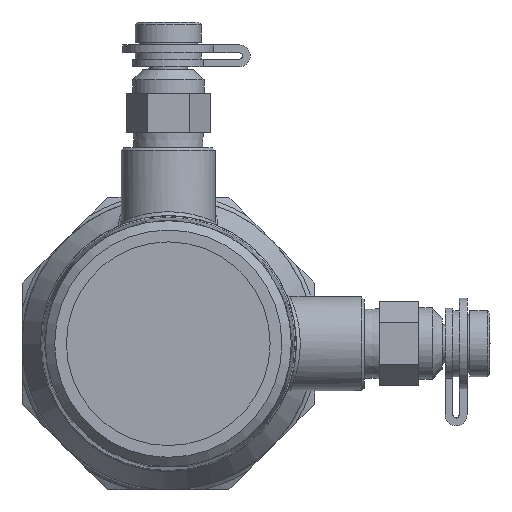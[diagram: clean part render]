
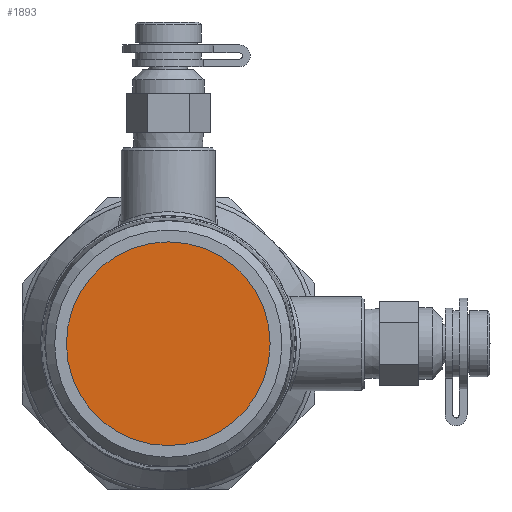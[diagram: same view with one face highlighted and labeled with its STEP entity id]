
A CAD part, front view. The second image highlights one B-rep face of the part: STEP entity #1893.
In plain terms, the highlighted free-form (B-spline) face has degree [1, 1] with [2, 2] control points.
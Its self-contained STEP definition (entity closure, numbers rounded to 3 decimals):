
#1873=CARTESIAN_POINT('',(19.5,13.,0.0));
#1874=VERTEX_POINT('',#1873);
#1875=CARTESIAN_POINT('',(0.,13.,0.0));
#1876=DIRECTION('',(0.0,-1.0,0.0));
#1877=DIRECTION('',(1.0,0.0,0.0));
#1878=AXIS2_PLACEMENT_3D('',#1875,#1876,#1877);
#1879=CIRCLE('',#1878,19.5);
#1880=EDGE_CURVE('',#1874,#1874,#1879,.T.);
#1885=CARTESIAN_POINT('',(-19.5,13.,19.5));
#1886=CARTESIAN_POINT('',(19.5,13.,19.5));
#1887=CARTESIAN_POINT('',(-19.5,13.,-19.5));
#1888=CARTESIAN_POINT('',(19.5,13.,-19.5));
#1889=B_SPLINE_SURFACE_WITH_KNOTS('',1,1,((#1885,#1887),(#1886,#1888)),.UNSPECIFIED.,.F.,.F.,.U.,(2,2),(2,2),(0.0,39.0),(0.0,39.0),.UNSPECIFIED.);
#1890=ORIENTED_EDGE('',*,*,#1880,.T.);
#1891=EDGE_LOOP('',(#1890));
#1892=FACE_OUTER_BOUND('',#1891,.T.);
#1893=ADVANCED_FACE('',(#1892),#1889,.F.);
